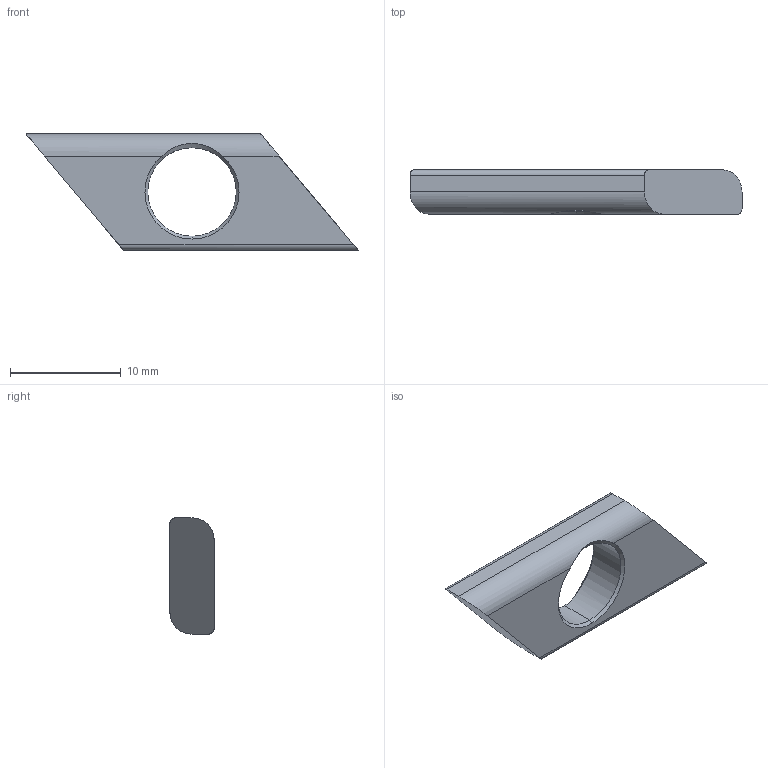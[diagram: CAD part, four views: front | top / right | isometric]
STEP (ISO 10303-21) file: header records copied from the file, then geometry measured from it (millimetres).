
FILE_DESCRIPTION (( 'STEP AP203' ), '1' );
FILE_NAME ('5197.STEP', '2017-04-14T02:45:39', ( '' ), ( '' ), 'SwSTEP 2.0', 'SolidWorks 2014', '' );
FILE_SCHEMA (( 'CONFIG_CONTROL_DESIGN' ));
Length unit declared in the file: millimetre
Products named in the file (1): 5197
Bounding box: 30 x 4 x 10.5 mm (x, y, z)
Volume: 648.4 mm3; surface area: 664.2 mm2
Topology: 1 solids, 1 shells, 18 faces, 48 edges, 30 vertices
Faces by surface type: cylinder 6, plane 6, cone 4, bspline 2
Entity records: 1247 total; most frequent: CARTESIAN_POINT 761, ORIENTED_EDGE 96, DIRECTION 72, EDGE_CURVE 48, VERTEX_POINT 30, AXIS2_PLACEMENT_3D 25, LINE 22, VECTOR 22
